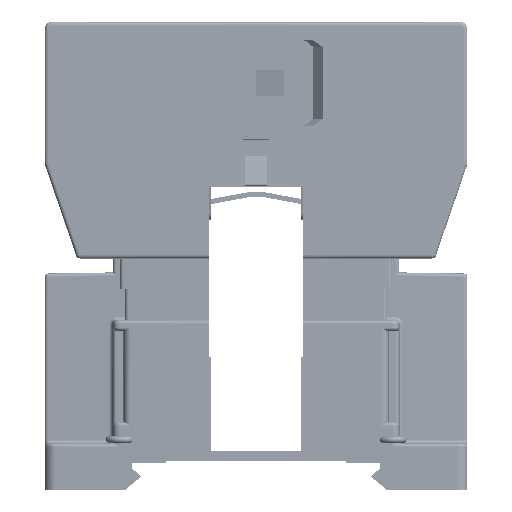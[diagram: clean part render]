
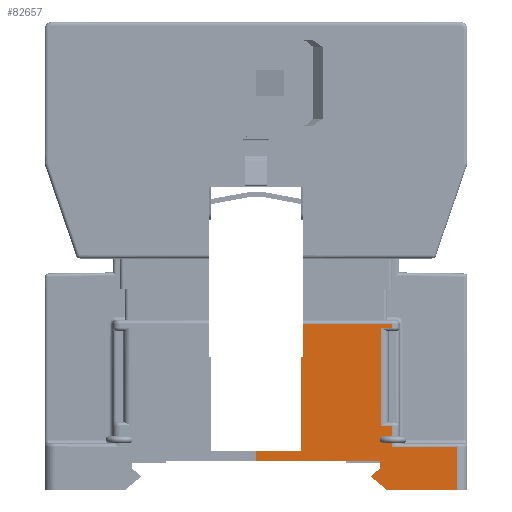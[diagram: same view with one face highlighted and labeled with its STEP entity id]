
A CAD part, left-side view. The second image highlights one B-rep face of the part: STEP entity #82657.
In plain terms, the highlighted planar face has unit normal (-1, 0, 0).
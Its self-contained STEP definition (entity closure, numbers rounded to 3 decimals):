
#19812 = LINE ( 'NONE', #24632, #19818 ) ;
#19818 = VECTOR ( 'NONE', #24634, 1000. ) ;
#21759 = LINE ( 'NONE', #36942, #21762 ) ;
#21762 = VECTOR ( 'NONE', #36943, 1000. ) ;
#21765 = LINE ( 'NONE', #36944, #21767 ) ;
#21767 = VECTOR ( 'NONE', #36945, 1000. ) ;
#21770 = LINE ( 'NONE', #36968, #21775 ) ;
#21775 = VECTOR ( 'NONE', #36969, 1000. ) ;
#21778 = LINE ( 'NONE', #36970, #21780 ) ;
#21780 = VECTOR ( 'NONE', #36971, 1000. ) ;
#21783 = LINE ( 'NONE', #36992, #21786 ) ;
#21786 = VECTOR ( 'NONE', #36993, 1000. ) ;
#21791 = LINE ( 'NONE', #36997, #21797 ) ;
#21797 = VECTOR ( 'NONE', #36998, 1000. ) ;
#21806 = LINE ( 'NONE', #37001, #21809 ) ;
#21809 = VECTOR ( 'NONE', #37002, 1000. ) ;
#21819 = LINE ( 'NONE', #37005, #21822 ) ;
#21822 = VECTOR ( 'NONE', #37006, 1000. ) ;
#21830 = LINE ( 'NONE', #37009, #21834 ) ;
#21834 = VECTOR ( 'NONE', #37011, 1000. ) ;
#21901 = LINE ( 'NONE', #37037, #21904 ) ;
#21904 = VECTOR ( 'NONE', #37038, 1000. ) ;
#21918 = LINE ( 'NONE', #37044, #21921 ) ;
#21921 = VECTOR ( 'NONE', #37045, 1000. ) ;
#21930 = LINE ( 'NONE', #37048, #21933 ) ;
#21933 = VECTOR ( 'NONE', #37049, 1000. ) ;
#21954 = LINE ( 'NONE', #37056, #21957 ) ;
#21957 = VECTOR ( 'NONE', #37057, 1000. ) ;
#21966 = LINE ( 'NONE', #37060, #21969 ) ;
#21969 = VECTOR ( 'NONE', #37061, 1000. ) ;
#24632 = CARTESIAN_POINT ( 'NONE',  ( -22.5, -19., 3.25 ) ) ;
#24634 = DIRECTION ( 'NONE',  ( 0., 0., -1. ) ) ;
#36942 = CARTESIAN_POINT ( 'NONE',  ( -22.5, -29.5, 6. ) ) ;
#36943 = DIRECTION ( 'NONE',  ( 0., 1., 0. ) ) ;
#36944 = CARTESIAN_POINT ( 'NONE',  ( -22.5, -19., 0. ) ) ;
#36945 = DIRECTION ( 'NONE',  ( 0., 0., 1. ) ) ;
#36968 = CARTESIAN_POINT ( 'NONE',  ( -22.5, -29.5, 8.95 ) ) ;
#36969 = DIRECTION ( 'NONE',  ( 0., 1., 0. ) ) ;
#36970 = CARTESIAN_POINT ( 'NONE',  ( -22.5, -17.5, 0. ) ) ;
#36971 = DIRECTION ( 'NONE',  ( 0., 0., 1. ) ) ;
#36992 = CARTESIAN_POINT ( 'NONE',  ( -22.5, -29.5, 22.65 ) ) ;
#36993 = DIRECTION ( 'NONE',  ( 0., -1., 0. ) ) ;
#36997 = CARTESIAN_POINT ( 'NONE',  ( -22.5, -29.5, 23.2 ) ) ;
#36998 = DIRECTION ( 'NONE',  ( 0., 1., 0. ) ) ;
#37001 = CARTESIAN_POINT ( 'NONE',  ( -22.5, -6.6, 0. ) ) ;
#37002 = DIRECTION ( 'NONE',  ( 0., 0., -1. ) ) ;
#37005 = CARTESIAN_POINT ( 'NONE',  ( -22.5, -29.5, 18.5 ) ) ;
#37006 = DIRECTION ( 'NONE',  ( 0., 1., 0. ) ) ;
#37009 = CARTESIAN_POINT ( 'NONE',  ( -22.5, -6.3, 0. ) ) ;
#37011 = DIRECTION ( 'NONE',  ( 0., 0., -1. ) ) ;
#37037 = CARTESIAN_POINT ( 'NONE',  ( -22.5, -29.5, 5.5 ) ) ;
#37038 = DIRECTION ( 'NONE',  ( 0., 1., 0. ) ) ;
#37044 = CARTESIAN_POINT ( 'NONE',  ( -22.5, -28., 0. ) ) ;
#37045 = DIRECTION ( 'NONE',  ( 0., 0., 1. ) ) ;
#37048 = CARTESIAN_POINT ( 'NONE',  ( -22.5, -17.3, 3. ) ) ;
#37049 = DIRECTION ( 'NONE',  ( 0., 0.766, -0.643 ) ) ;
#37056 = CARTESIAN_POINT ( 'NONE',  ( -22.5, -16., 1.909 ) ) ;
#37057 = DIRECTION ( 'NONE',  ( 0., -0.766, -0.643 ) ) ;
#37060 = CARTESIAN_POINT ( 'NONE',  ( -22.5, -29.5, 0. ) ) ;
#37061 = DIRECTION ( 'NONE',  ( 0., -1., 0. ) ) ;
#45269 = CARTESIAN_POINT ( 'NONE',  ( -22.5, 0., 4. ) ) ;
#45271 = CARTESIAN_POINT ( 'NONE',  ( -22.5, -17.3, 4. ) ) ;
#47557 = FACE_OUTER_BOUND ( 'NONE', #66886, .T. ) ;
#58027 = VERTEX_POINT ( 'NONE', #150843 ) ;
#58514 = VERTEX_POINT ( 'NONE', #151204 ) ;
#61146 = VERTEX_POINT ( 'NONE', #154221 ) ;
#61150 = VERTEX_POINT ( 'NONE', #154226 ) ;
#61202 = VERTEX_POINT ( 'NONE', #154287 ) ;
#61300 = VERTEX_POINT ( 'NONE', #155368 ) ;
#61302 = VERTEX_POINT ( 'NONE', #155370 ) ;
#61304 = VERTEX_POINT ( 'NONE', #155371 ) ;
#61306 = VERTEX_POINT ( 'NONE', #155373 ) ;
#61308 = VERTEX_POINT ( 'NONE', #155375 ) ;
#61310 = VERTEX_POINT ( 'NONE', #155377 ) ;
#61322 = VERTEX_POINT ( 'NONE', #155388 ) ;
#61324 = VERTEX_POINT ( 'NONE', #155389 ) ;
#61330 = VERTEX_POINT ( 'NONE', #155394 ) ;
#61332 = VERTEX_POINT ( 'NONE', #155396 ) ;
#61338 = VERTEX_POINT ( 'NONE', #155401 ) ;
#66886 = EDGE_LOOP ( 'NONE', ( #90547, #90549, #90551, #90553, #90555, #90557, #90559, #90561, #90563, #90565, #90567, #90569, #90571, #90573, #90575, #90577, #90579, #90581 ) ) ;
#69387 = PLANE ( 'NONE',  #101732 ) ;
#69389 = CARTESIAN_POINT ( 'NONE',  ( -22.5, -29.5, 0. ) ) ;
#69390 = DIRECTION ( 'NONE',  ( -1., 0., 0. ) ) ;
#69392 = DIRECTION ( 'NONE',  ( 0., -1., 0. ) ) ;
#75404 = EDGE_CURVE ( 'NONE', #58514, #58027, #19812, .T. ) ;
#76272 = EDGE_CURVE ( 'NONE', #61202, #61146, #21759, .T. ) ;
#76273 = EDGE_CURVE ( 'NONE', #61146, #61150, #21765, .T. ) ;
#76277 = EDGE_CURVE ( 'NONE', #61150, #61300, #21770, .T. ) ;
#76280 = EDGE_CURVE ( 'NONE', #61300, #61302, #21778, .T. ) ;
#76283 = EDGE_CURVE ( 'NONE', #61302, #58027, #21783, .T. ) ;
#76287 = EDGE_CURVE ( 'NONE', #58514, #61304, #21791, .T. ) ;
#76291 = EDGE_CURVE ( 'NONE', #61304, #61306, #21806, .T. ) ;
#76295 = EDGE_CURVE ( 'NONE', #61306, #61308, #21819, .T. ) ;
#76300 = EDGE_CURVE ( 'NONE', #61308, #61310, #21830, .T. ) ;
#76323 = EDGE_CURVE ( 'NONE', #61310, #61322, #21901, .T. ) ;
#76329 = EDGE_CURVE ( 'NONE', #61324, #61202, #21918, .T. ) ;
#76332 = EDGE_CURVE ( 'NONE', #61332, #61330, #21930, .T. ) ;
#76341 = EDGE_CURVE ( 'NONE', #61330, #61338, #21954, .T. ) ;
#76345 = EDGE_CURVE ( 'NONE', #61338, #61324, #21966, .T. ) ;
#78163 = VERTEX_POINT ( 'NONE', #45269 ) ;
#78164 = VERTEX_POINT ( 'NONE', #45271 ) ;
#82657 = ADVANCED_FACE ( 'NONE', ( #47557 ), #69387, .T. ) ;
#86401 = LINE ( 'NONE', #113049, #86405 ) ;
#86405 = VECTOR ( 'NONE', #113051, 1000. ) ;
#86410 = LINE ( 'NONE', #113058, #86412 ) ;
#86412 = VECTOR ( 'NONE', #113059, 1000. ) ;
#86418 = LINE ( 'NONE', #113067, #86420 ) ;
#86420 = VECTOR ( 'NONE', #113069, 1000. ) ;
#90547 = ORIENTED_EDGE ( 'NONE', *, *, #76345, .T. ) ;
#90549 = ORIENTED_EDGE ( 'NONE', *, *, #76329, .T. ) ;
#90551 = ORIENTED_EDGE ( 'NONE', *, *, #76272, .T. ) ;
#90553 = ORIENTED_EDGE ( 'NONE', *, *, #76273, .T. ) ;
#90555 = ORIENTED_EDGE ( 'NONE', *, *, #76277, .T. ) ;
#90557 = ORIENTED_EDGE ( 'NONE', *, *, #76280, .T. ) ;
#90559 = ORIENTED_EDGE ( 'NONE', *, *, #76283, .T. ) ;
#90561 = ORIENTED_EDGE ( 'NONE', *, *, #75404, .F. ) ;
#90563 = ORIENTED_EDGE ( 'NONE', *, *, #76287, .T. ) ;
#90565 = ORIENTED_EDGE ( 'NONE', *, *, #76291, .T. ) ;
#90567 = ORIENTED_EDGE ( 'NONE', *, *, #76295, .T. ) ;
#90569 = ORIENTED_EDGE ( 'NONE', *, *, #76300, .T. ) ;
#90571 = ORIENTED_EDGE ( 'NONE', *, *, #76323, .T. ) ;
#90573 = ORIENTED_EDGE ( 'NONE', *, *, #92907, .T. ) ;
#90575 = ORIENTED_EDGE ( 'NONE', *, *, #92910, .T. ) ;
#90577 = ORIENTED_EDGE ( 'NONE', *, *, #92915, .T. ) ;
#90579 = ORIENTED_EDGE ( 'NONE', *, *, #76332, .T. ) ;
#90581 = ORIENTED_EDGE ( 'NONE', *, *, #76341, .T. ) ;
#92907 = EDGE_CURVE ( 'NONE', #61322, #78163, #86401, .T. ) ;
#92910 = EDGE_CURVE ( 'NONE', #78163, #78164, #86410, .T. ) ;
#92915 = EDGE_CURVE ( 'NONE', #78164, #61332, #86418, .T. ) ;
#101732 = AXIS2_PLACEMENT_3D ( 'NONE', #69389, #69390, #69392 ) ;
#113049 = CARTESIAN_POINT ( 'NONE',  ( -22.5, 0., 0. ) ) ;
#113051 = DIRECTION ( 'NONE',  ( 0., 0., -1. ) ) ;
#113058 = CARTESIAN_POINT ( 'NONE',  ( -22.5, -17.3, 4. ) ) ;
#113059 = DIRECTION ( 'NONE',  ( 0., -1., 0. ) ) ;
#113067 = CARTESIAN_POINT ( 'NONE',  ( -22.5, -17.3, 3. ) ) ;
#113069 = DIRECTION ( 'NONE',  ( 0., 0., -1. ) ) ;
#150843 = CARTESIAN_POINT ( 'NONE',  ( -22.5, -19., 22.65 ) ) ;
#151204 = CARTESIAN_POINT ( 'NONE',  ( -22.5, -19., 23.2 ) ) ;
#154221 = CARTESIAN_POINT ( 'NONE',  ( -22.5, -19., 6. ) ) ;
#154226 = CARTESIAN_POINT ( 'NONE',  ( -22.5, -19., 8.95 ) ) ;
#154287 = CARTESIAN_POINT ( 'NONE',  ( -22.5, -28., 6. ) ) ;
#155368 = CARTESIAN_POINT ( 'NONE',  ( -22.5, -17.5, 8.95 ) ) ;
#155370 = CARTESIAN_POINT ( 'NONE',  ( -22.5, -17.5, 22.65 ) ) ;
#155371 = CARTESIAN_POINT ( 'NONE',  ( -22.5, -6.6, 23.2 ) ) ;
#155373 = CARTESIAN_POINT ( 'NONE',  ( -22.5, -6.6, 18.5 ) ) ;
#155375 = CARTESIAN_POINT ( 'NONE',  ( -22.5, -6.3, 18.5 ) ) ;
#155377 = CARTESIAN_POINT ( 'NONE',  ( -22.5, -6.3, 5.5 ) ) ;
#155388 = CARTESIAN_POINT ( 'NONE',  ( -22.5, 0., 5.5 ) ) ;
#155389 = CARTESIAN_POINT ( 'NONE',  ( -22.5, -28., 0. ) ) ;
#155394 = CARTESIAN_POINT ( 'NONE',  ( -22.5, -16., 1.909 ) ) ;
#155396 = CARTESIAN_POINT ( 'NONE',  ( -22.5, -17.3, 3. ) ) ;
#155401 = CARTESIAN_POINT ( 'NONE',  ( -22.5, -18.275, 0. ) ) ;
